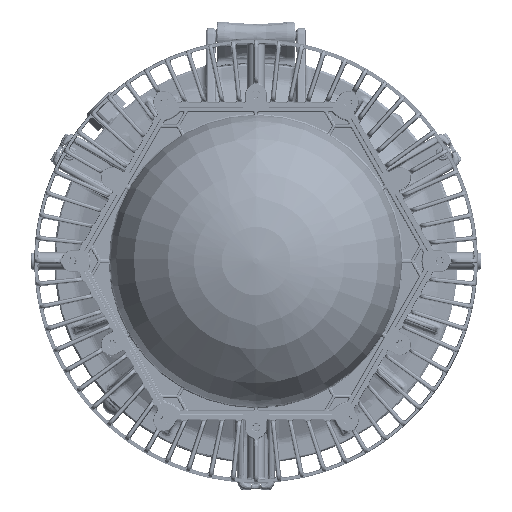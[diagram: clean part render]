
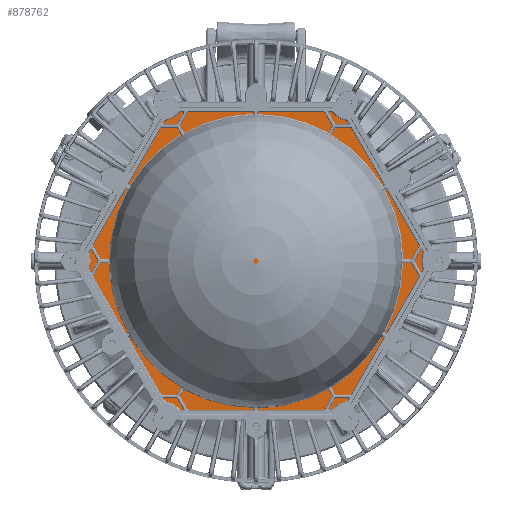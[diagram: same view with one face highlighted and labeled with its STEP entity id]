
A CAD part, front view. The second image highlights one B-rep face of the part: STEP entity #878762.
In plain terms, the highlighted planar face has unit normal (0, -1, 0).
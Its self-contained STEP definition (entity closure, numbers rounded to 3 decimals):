
#878527=CARTESIAN_POINT('',(-4.845,0.,2.797));
#878528=DIRECTION('',(0.,-1.,0.));
#878529=DIRECTION('',(-0.5,0.,0.866));
#878530=AXIS2_PLACEMENT_3D('',#878527,#878528,#878529);
#878532=DIRECTION('',(0.866,0.,0.5));
#878533=VECTOR('',#878532,5.595);
#878534=CARTESIAN_POINT('',(-5.173,0.,3.365));
#878535=LINE('',#878534,#878533);
#878536=CARTESIAN_POINT('',(0.,0.,5.595));
#878537=DIRECTION('',(0.,-1.,0.));
#878538=DIRECTION('',(0.5,0.,0.866));
#878539=AXIS2_PLACEMENT_3D('',#878536,#878537,#878538);
#878541=DIRECTION('',(0.866,0.,-0.5));
#878542=VECTOR('',#878541,5.595);
#878543=CARTESIAN_POINT('',(0.328,0.,6.162));
#878544=LINE('',#878543,#878542);
#878545=CARTESIAN_POINT('',(4.845,0.,2.797));
#878546=DIRECTION('',(0.,-1.,0.));
#878547=DIRECTION('',(1.,0.,0.));
#878548=AXIS2_PLACEMENT_3D('',#878545,#878546,#878547);
#878550=DIRECTION('',(0.,0.,-1.));
#878551=VECTOR('',#878550,5.595);
#878552=CARTESIAN_POINT('',(5.5,0.,2.797));
#878553=LINE('',#878552,#878551);
#878554=CARTESIAN_POINT('',(4.845,0.,-2.797));
#878555=DIRECTION('',(0.,-1.,0.));
#878556=DIRECTION('',(0.5,0.,-0.866));
#878557=AXIS2_PLACEMENT_3D('',#878554,#878555,#878556);
#878559=DIRECTION('',(-0.866,0.,-0.5));
#878560=VECTOR('',#878559,5.595);
#878561=CARTESIAN_POINT('',(5.173,0.,-3.365));
#878562=LINE('',#878561,#878560);
#878563=CARTESIAN_POINT('',(0.,0.,-5.595));
#878564=DIRECTION('',(0.,-1.,0.));
#878565=DIRECTION('',(-0.5,0.,-0.866));
#878566=AXIS2_PLACEMENT_3D('',#878563,#878564,#878565);
#878568=DIRECTION('',(-0.866,0.,0.5));
#878569=VECTOR('',#878568,5.595);
#878570=CARTESIAN_POINT('',(-0.328,0.,-6.162));
#878571=LINE('',#878570,#878569);
#878572=CARTESIAN_POINT('',(-4.845,0.,-2.797));
#878573=DIRECTION('',(0.,-1.,0.));
#878574=DIRECTION('',(-1.,0.,0.));
#878575=AXIS2_PLACEMENT_3D('',#878572,#878573,#878574);
#878577=DIRECTION('',(0.,0.,1.));
#878578=VECTOR('',#878577,5.595);
#878579=CARTESIAN_POINT('',(-5.5,0.,-2.797));
#878580=LINE('',#878579,#878578);
#878683=CARTESIAN_POINT('',(-5.173,0.,3.365));
#878684=CARTESIAN_POINT('',(-5.5,0.,2.797));
#878685=VERTEX_POINT('',#878683);
#878686=VERTEX_POINT('',#878684);
#878691=CARTESIAN_POINT('',(-5.5,0.,-2.797));
#878692=CARTESIAN_POINT('',(-5.173,0.,-3.365));
#878693=VERTEX_POINT('',#878691);
#878694=VERTEX_POINT('',#878692);
#878699=CARTESIAN_POINT('',(-0.328,0.,-6.162));
#878700=CARTESIAN_POINT('',(0.328,0.,-6.162));
#878701=VERTEX_POINT('',#878699);
#878702=VERTEX_POINT('',#878700);
#878707=CARTESIAN_POINT('',(5.173,0.,-3.365));
#878708=CARTESIAN_POINT('',(5.5,0.,-2.797));
#878709=VERTEX_POINT('',#878707);
#878710=VERTEX_POINT('',#878708);
#878715=CARTESIAN_POINT('',(5.5,0.,2.797));
#878716=CARTESIAN_POINT('',(5.173,0.,3.365));
#878717=VERTEX_POINT('',#878715);
#878718=VERTEX_POINT('',#878716);
#878723=CARTESIAN_POINT('',(0.328,0.,6.162));
#878724=CARTESIAN_POINT('',(-0.328,0.,6.162));
#878725=VERTEX_POINT('',#878723);
#878726=VERTEX_POINT('',#878724);
#878731=CARTESIAN_POINT('',(0.,0.,0.));
#878732=DIRECTION('',(0.,1.,0.));
#878733=DIRECTION('',(1.,0.,0.));
#878734=AXIS2_PLACEMENT_3D('',#878731,#878732,#878733);
#878735=PLANE('',#878734);
#878737=ORIENTED_EDGE('',*,*,#878736,.F.);
#878739=ORIENTED_EDGE('',*,*,#878738,.T.);
#878741=ORIENTED_EDGE('',*,*,#878740,.F.);
#878743=ORIENTED_EDGE('',*,*,#878742,.T.);
#878745=ORIENTED_EDGE('',*,*,#878744,.F.);
#878747=ORIENTED_EDGE('',*,*,#878746,.T.);
#878749=ORIENTED_EDGE('',*,*,#878748,.F.);
#878751=ORIENTED_EDGE('',*,*,#878750,.T.);
#878753=ORIENTED_EDGE('',*,*,#878752,.F.);
#878755=ORIENTED_EDGE('',*,*,#878754,.T.);
#878757=ORIENTED_EDGE('',*,*,#878756,.F.);
#878759=ORIENTED_EDGE('',*,*,#878758,.T.);
#878760=EDGE_LOOP('',(#878737,#878739,#878741,#878743,#878745,#878747,#878749,
#878751,#878753,#878755,#878757,#878759));
#878761=FACE_OUTER_BOUND('',#878760,.F.);
#878762=ADVANCED_FACE('',(#878761),#878735,.F.);
#878531=CIRCLE('',#878530,0.655);
#878540=CIRCLE('',#878539,0.655);
#878549=CIRCLE('',#878548,0.655);
#878558=CIRCLE('',#878557,0.655);
#878567=CIRCLE('',#878566,0.655);
#878576=CIRCLE('',#878575,0.655);
#878736=EDGE_CURVE('',#878685,#878686,#878531,.T.);
#878738=EDGE_CURVE('',#878685,#878726,#878535,.T.);
#878740=EDGE_CURVE('',#878725,#878726,#878540,.T.);
#878742=EDGE_CURVE('',#878725,#878718,#878544,.T.);
#878744=EDGE_CURVE('',#878717,#878718,#878549,.T.);
#878746=EDGE_CURVE('',#878717,#878710,#878553,.T.);
#878748=EDGE_CURVE('',#878709,#878710,#878558,.T.);
#878750=EDGE_CURVE('',#878709,#878702,#878562,.T.);
#878752=EDGE_CURVE('',#878701,#878702,#878567,.T.);
#878754=EDGE_CURVE('',#878701,#878694,#878571,.T.);
#878756=EDGE_CURVE('',#878693,#878694,#878576,.T.);
#878758=EDGE_CURVE('',#878693,#878686,#878580,.T.);
